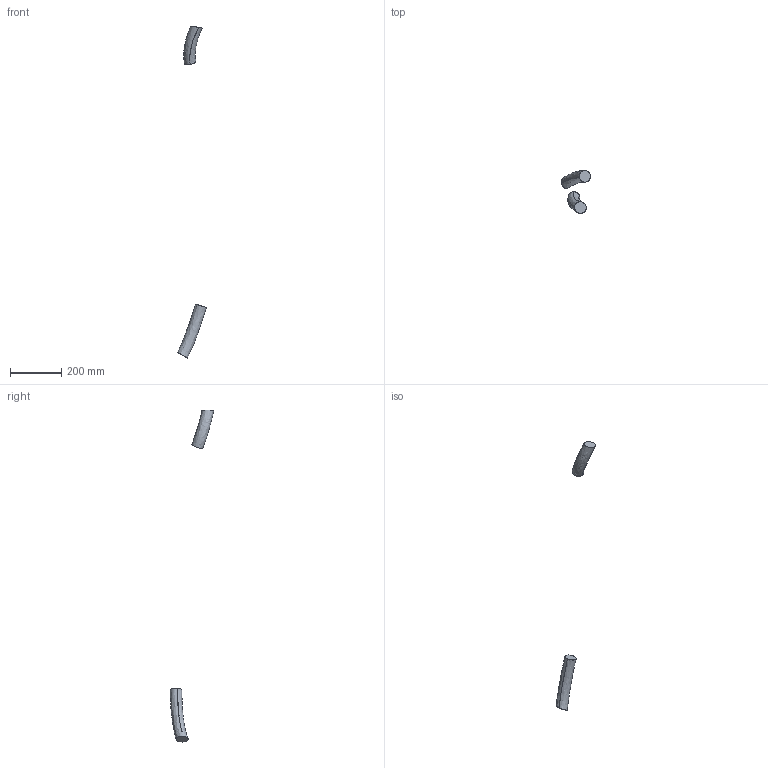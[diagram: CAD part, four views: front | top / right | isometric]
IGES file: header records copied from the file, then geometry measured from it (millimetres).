
Start section: SolidWorks IGES file using analytic representation for surfaces
Global section: file name: C:\Data\SAP_DOC\LW\IRB 6720\IRB6720_160kg-320_OC_01_SW_J\IRB6720_160kg-320_OC_01_IGES_J\IRB6720_160kg-320_OC_00_LINK02m_CABLE.igs; native system: SolidWorks 2024; preprocessor: SolidWorks 2024; author: SEJOVAS3; date: 260610.124030; units: millimetre
Bounding box: 112.64 x 168.91 x 1293.16 mm (x, y, z)
Surface area: 56623.2 mm2 (no closed solid volume)
Topology: 0 solids, 0 shells, 8 faces, 365 edges, 365 vertices
Faces by surface type: bspline 8
